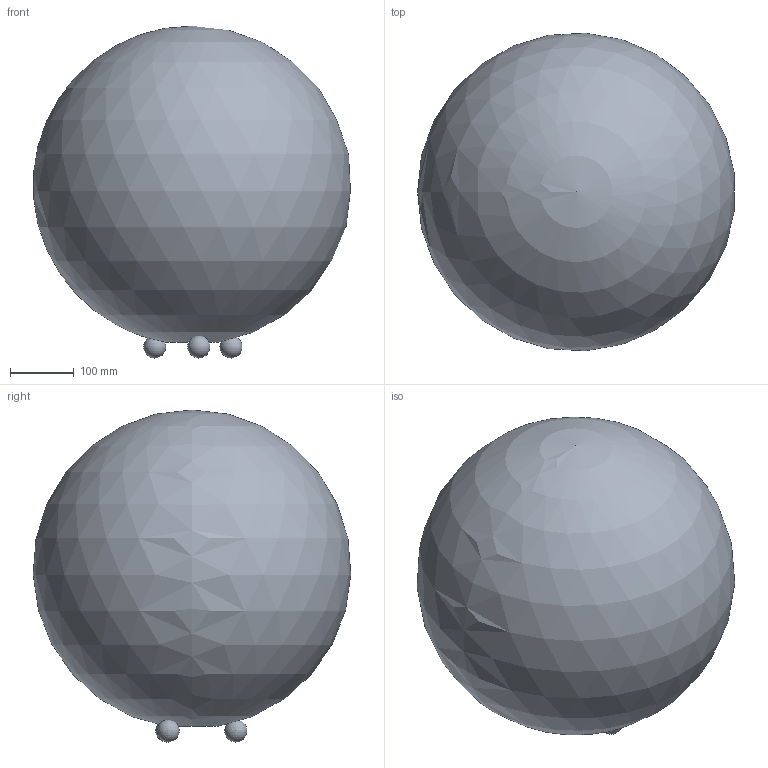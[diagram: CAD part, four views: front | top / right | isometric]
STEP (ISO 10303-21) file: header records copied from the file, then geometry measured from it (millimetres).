
FILE_DESCRIPTION(/* description */ (''),/* implementation_level */ '2;1');
FILE_NAME(/* name */ 'C:/Users/LukasGröber/GMS Cloud/Groeber Mannheim Lichtwerke - Dokumente/Marketing/Produkte/3D Daten/Kugel Sahara Tischleuchte/Kugel Sahara 50 Tischleuchte.step',/* time_stamp */ '2022-07-08T11:49:56+02:00',/* author */ (''),/* organization */ (''),/* preprocessor_version */ 'ST-DEVELOPER v19',/* originating_system */ 'Autodesk Translation Framework v11.7.0.108',/* authorisation */ '');
FILE_SCHEMA (('AUTOMOTIVE_DESIGN { 1 0 10303 214 3 1 1 }'));
Length unit declared in the file: millimetre
Products named in the file (2): Kugel Sahara 50 Tischleuchte; Kugel Sahara 500 Öffnung 80
Assembly tree (1 placements, depth 2):
  Kugel Sahara 50 Tischleuchte
    Kugel Sahara 500 Öffnung 80
Bounding box: 497.36 x 498.86 x 521.34 mm (x, y, z)
Volume: 3891023.4 mm3; surface area: 1542392.8 mm2
Topology: 4 solids, 4 shells, 7 faces, 17 edges, 11 vertices
Faces by surface type: sphere 5, cylinder 1, plane 1
Full cylindrical faces by diameter (mm): 80 x1
Entity records: 253 total; most frequent: DIRECTION 39, CARTESIAN_POINT 31, AXIS2_PLACEMENT_3D 19, ORIENTED_EDGE 18, VERTEX_POINT 11, EDGE_CURVE 9, EDGE_LOOP 8, CIRCLE 8
